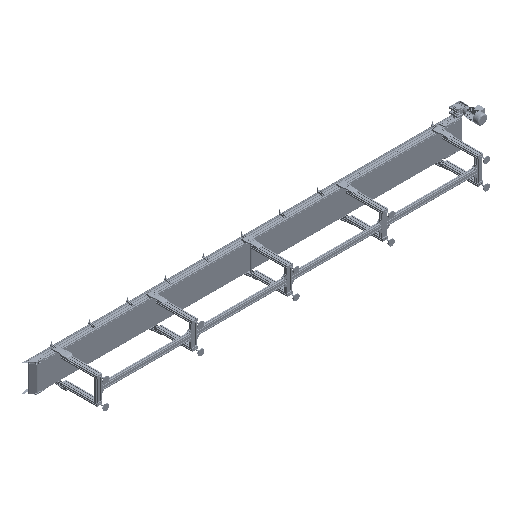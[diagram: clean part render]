
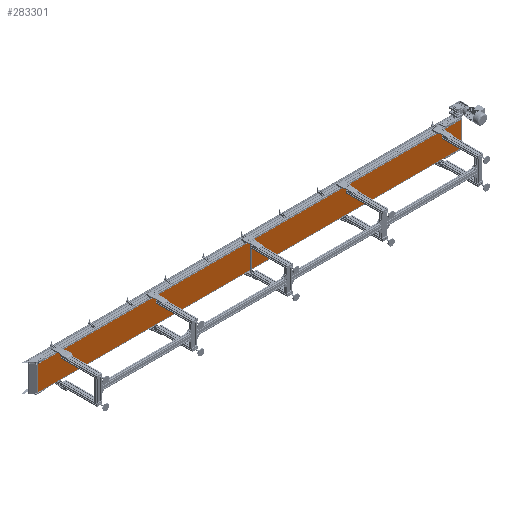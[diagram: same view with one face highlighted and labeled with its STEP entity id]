
A CAD part, isometric view. The second image highlights one B-rep face of the part: STEP entity #283301.
In plain terms, the highlighted planar face has unit normal (0, -1, 0).
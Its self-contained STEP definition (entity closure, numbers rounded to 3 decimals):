
#13043 = EDGE_CURVE ( 'NONE', #25845, #329340, #114278, .T. ) ;
#25845 = VERTEX_POINT ( 'NONE', #183730 ) ;
#56657 = VECTOR ( 'NONE', #132823, 1000. ) ;
#60959 = CARTESIAN_POINT ( 'NONE',  ( -3466., -49.5, -200. ) ) ;
#66908 = CARTESIAN_POINT ( 'NONE',  ( -3466., -49.5, 200. ) ) ;
#67209 = ORIENTED_EDGE ( 'NONE', *, *, #70897, .F. ) ;
#70897 = EDGE_CURVE ( 'NONE', #25845, #184119, #275224, .T. ) ;
#72435 = CARTESIAN_POINT ( 'NONE',  ( 3474., -49.5, -200. ) ) ;
#75050 = FACE_OUTER_BOUND ( 'NONE', #125966, .T. ) ;
#84618 = CARTESIAN_POINT ( 'NONE',  ( -3466., -49.5, 200. ) ) ;
#103378 = VECTOR ( 'NONE', #219395, 1000. ) ;
#114278 = LINE ( 'NONE', #84618, #103378 ) ;
#125966 = EDGE_LOOP ( 'NONE', ( #258694, #130047, #67209, #273650 ) ) ;
#129278 = DIRECTION ( 'NONE',  ( -1., 0., 0. ) ) ;
#130047 = ORIENTED_EDGE ( 'NONE', *, *, #322467, .F. ) ;
#132823 = DIRECTION ( 'NONE',  ( 1., 0., 0. ) ) ;
#155505 = DIRECTION ( 'NONE',  ( 0., 1., 0. ) ) ;
#167006 = VECTOR ( 'NONE', #185348, 1000. ) ;
#180147 = LINE ( 'NONE', #211653, #56657 ) ;
#183730 = CARTESIAN_POINT ( 'NONE',  ( -3466., -49.5, 200. ) ) ;
#184119 = VERTEX_POINT ( 'NONE', #235284 ) ;
#185348 = DIRECTION ( 'NONE',  ( 0., 0., -1. ) ) ;
#206354 = CARTESIAN_POINT ( 'NONE',  ( -3466., -49.5, 200. ) ) ;
#211017 = VECTOR ( 'NONE', #252422, 1000. ) ;
#211653 = CARTESIAN_POINT ( 'NONE',  ( -3466., -49.5, -200. ) ) ;
#211668 = LINE ( 'NONE', #318308, #167006 ) ;
#212570 = AXIS2_PLACEMENT_3D ( 'NONE', #206354, #155505, #129278 ) ;
#219395 = DIRECTION ( 'NONE',  ( 0., 0., -1. ) ) ;
#235284 = CARTESIAN_POINT ( 'NONE',  ( 3474., -49.5, 200. ) ) ;
#244985 = EDGE_CURVE ( 'NONE', #329340, #293802, #180147, .T. ) ;
#252422 = DIRECTION ( 'NONE',  ( 1., 0., 0. ) ) ;
#258694 = ORIENTED_EDGE ( 'NONE', *, *, #244985, .T. ) ;
#273650 = ORIENTED_EDGE ( 'NONE', *, *, #13043, .T. ) ;
#275224 = LINE ( 'NONE', #66908, #211017 ) ;
#283301 = ADVANCED_FACE ( 'NONE', ( #75050 ), #290236, .F. ) ;
#290236 = PLANE ( 'NONE',  #212570 ) ;
#293802 = VERTEX_POINT ( 'NONE', #72435 ) ;
#318308 = CARTESIAN_POINT ( 'NONE',  ( 3474., -49.5, 200. ) ) ;
#322467 = EDGE_CURVE ( 'NONE', #184119, #293802, #211668, .T. ) ;
#329340 = VERTEX_POINT ( 'NONE', #60959 ) ;
